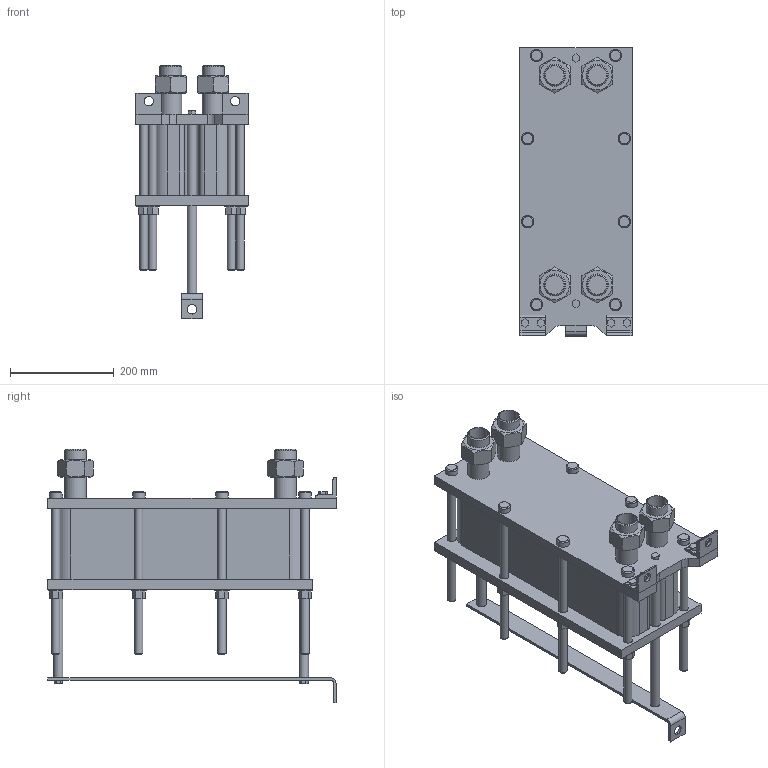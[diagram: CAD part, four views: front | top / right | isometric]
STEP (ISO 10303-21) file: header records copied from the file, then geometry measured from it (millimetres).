
FILE_DESCRIPTION(/* description */ (''),/* implementation_level */ '2;1');
FILE_NAME(/* name */ 'C:\Users\zhuro\Desktop\ENCO\TO\ЭН-004\ЭН-0,5-004-44-1.stp',/* time_stamp */ '2022-06-06T10:46:35+03:00',/* author */ ('zhuro'),/* organization */ (''),/* preprocessor_version */ 'ST-DEVELOPER v18.1',/* originating_system */ 'Autodesk Inventor 2022',/* authorisation */ '');
FILE_SCHEMA (('AUTOMOTIVE_DESIGN { 1 0 10303 214 3 1 1 }'));
Length unit declared in the file: millimetre
Products named in the file (1): ЭН-0,5-004-44-1
Bounding box: 216 x 555 x 488.2 mm (x, y, z)
Volume: 15787413.5 mm3; surface area: 1254334.9 mm2
Topology: 40 solids, 40 shells, 403 faces, 865 edges, 574 vertices
Faces by surface type: plane 272, cylinder 103, cone 28
Full cylindrical faces by diameter (mm): 10 x4, 16 x16, 18 x29, 20 x2, 24 x8, 28 x8, 36.3 x5, 42.3 x9
Entity records: 11137 total; most frequent: CARTESIAN_POINT 1939, DIRECTION 1879, ORIENTED_EDGE 1730, EDGE_CURVE 865, AXIS2_PLACEMENT_3D 658, VERTEX_POINT 574, LINE 563, VECTOR 563
